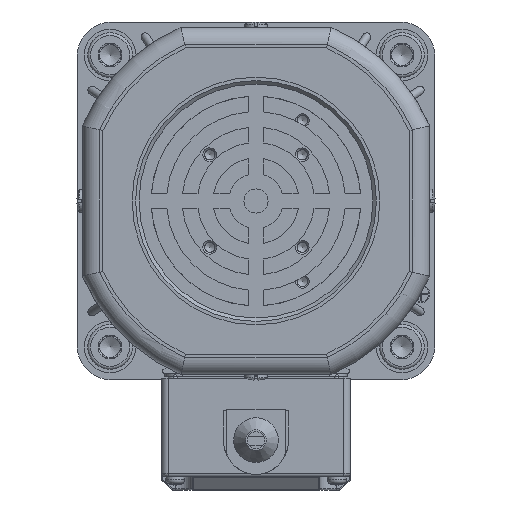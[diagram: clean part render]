
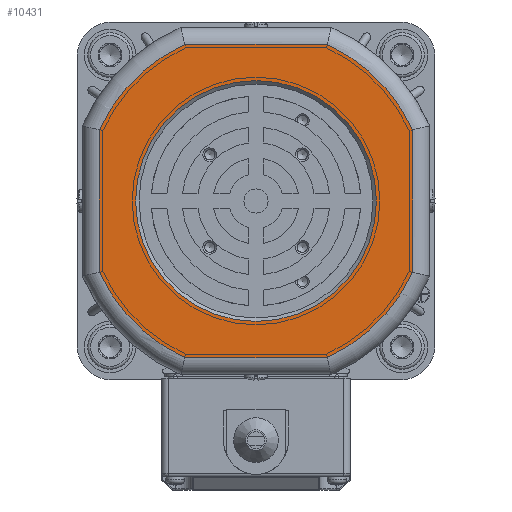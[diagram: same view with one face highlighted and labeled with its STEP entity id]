
A CAD part, left-side view. The second image highlights one B-rep face of the part: STEP entity #10431.
In plain terms, the highlighted planar face has unit normal (-1, 0, 0).
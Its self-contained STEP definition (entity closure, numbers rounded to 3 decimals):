
#3011=PLANE('',#36032);
#6367=LINE('',#57860,#8350);
#6368=LINE('',#57876,#8351);
#6371=LINE('',#57928,#8354);
#6372=LINE('',#57944,#8355);
#8350=VECTOR('',#44317,1.);
#8351=VECTOR('',#44320,1.);
#8354=VECTOR('',#44337,1.);
#8355=VECTOR('',#44340,1.);
#10431=ADVANCED_FACE('',(#11493,#11494),#3011,.F.);
#11493=FACE_BOUND('',#13837,.T.);
#11494=FACE_BOUND('',#13838,.T.);
#13837=EDGE_LOOP('',(#22734));
#13838=EDGE_LOOP('',(#22735,#22736,#22737,#22738,#22739,#22740,#22741,#22742));
#22734=ORIENTED_EDGE('',*,*,#30402,.T.);
#22735=ORIENTED_EDGE('',*,*,#30412,.T.);
#22736=ORIENTED_EDGE('',*,*,#30407,.T.);
#22737=ORIENTED_EDGE('',*,*,#30414,.T.);
#22738=ORIENTED_EDGE('',*,*,#30420,.T.);
#22739=ORIENTED_EDGE('',*,*,#30426,.T.);
#22740=ORIENTED_EDGE('',*,*,#30428,.T.);
#22741=ORIENTED_EDGE('',*,*,#30424,.T.);
#22742=ORIENTED_EDGE('',*,*,#30418,.T.);
#25960=VERTEX_POINT('',#57805);
#25965=VERTEX_POINT('',#57827);
#25966=VERTEX_POINT('',#57829);
#25968=VERTEX_POINT('',#57857);
#25971=VERTEX_POINT('',#57875);
#25972=VERTEX_POINT('',#57891);
#25975=VERTEX_POINT('',#57909);
#25976=VERTEX_POINT('',#57925);
#25979=VERTEX_POINT('',#57943);
#30402=EDGE_CURVE('',#25960,#25960,#32518,.T.);
#30407=EDGE_CURVE('',#25966,#25965,#32522,.T.);
#30412=EDGE_CURVE('',#25968,#25966,#6367,.T.);
#30414=EDGE_CURVE('',#25965,#25971,#6368,.T.);
#30418=EDGE_CURVE('',#25972,#25968,#32525,.T.);
#30420=EDGE_CURVE('',#25971,#25975,#32526,.T.);
#30424=EDGE_CURVE('',#25976,#25972,#6371,.T.);
#30426=EDGE_CURVE('',#25975,#25979,#6372,.T.);
#30428=EDGE_CURVE('',#25979,#25976,#32528,.T.);
#32518=CIRCLE('',#35842,35.);
#32522=CIRCLE('',#35848,50.);
#32525=CIRCLE('',#35854,50.);
#32526=CIRCLE('',#35856,50.);
#32528=CIRCLE('',#35861,50.);
#35842=AXIS2_PLACEMENT_3D('',#57804,#44298,#44299);
#35848=AXIS2_PLACEMENT_3D('',#57828,#44310,#44311);
#35854=AXIS2_PLACEMENT_3D('',#57894,#44326,#44327);
#35856=AXIS2_PLACEMENT_3D('',#57910,#44330,#44331);
#35861=AXIS2_PLACEMENT_3D('',#57947,#44344,#44345);
#36032=AXIS2_PLACEMENT_3D('',#58528,#44846,#44847);
#44298=DIRECTION('',(1.,0.,0.));
#44299=DIRECTION('',(0.,-1.,0.));
#44310=DIRECTION('',(-1.,0.,0.));
#44311=DIRECTION('',(0.,0.,1.));
#44317=DIRECTION('',(0.,-1.,0.));
#44320=DIRECTION('',(0.,0.,1.));
#44326=DIRECTION('',(-1.,0.,0.));
#44327=DIRECTION('',(0.,0.,1.));
#44330=DIRECTION('',(-1.,0.,0.));
#44331=DIRECTION('',(0.,0.,1.));
#44337=DIRECTION('',(0.,0.,-1.));
#44340=DIRECTION('',(0.,1.,0.));
#44344=DIRECTION('',(-1.,0.,0.));
#44345=DIRECTION('',(0.,0.,1.));
#44846=DIRECTION('',(1.,0.,0.));
#44847=DIRECTION('',(0.,0.,1.));
#57804=CARTESIAN_POINT('',(-266.374,-1.839,0.));
#57805=CARTESIAN_POINT('',(-266.374,-36.839,0.));
#57827=CARTESIAN_POINT('',(-266.374,-47.339,-20.73));
#57828=CARTESIAN_POINT('',(-266.374,-1.839,0.));
#57829=CARTESIAN_POINT('',(-266.374,-22.569,-45.5));
#57857=CARTESIAN_POINT('',(-266.374,18.891,-45.5));
#57860=CARTESIAN_POINT('',(-266.374,-23.628,-45.5));
#57875=CARTESIAN_POINT('',(-266.374,-47.339,20.73));
#57876=CARTESIAN_POINT('',(-266.374,-47.339,21.789));
#57891=CARTESIAN_POINT('',(-266.374,43.661,-20.73));
#57894=CARTESIAN_POINT('',(-266.374,-1.839,0.));
#57909=CARTESIAN_POINT('',(-266.374,-22.569,45.5));
#57910=CARTESIAN_POINT('',(-266.374,-1.839,0.));
#57925=CARTESIAN_POINT('',(-266.374,43.661,20.73));
#57928=CARTESIAN_POINT('',(-266.374,43.661,-21.789));
#57943=CARTESIAN_POINT('',(-266.374,18.891,45.5));
#57944=CARTESIAN_POINT('',(-266.374,19.95,45.5));
#57947=CARTESIAN_POINT('',(-266.374,-1.839,0.));
#58528=CARTESIAN_POINT('',(-266.374,-1.839,0.));
